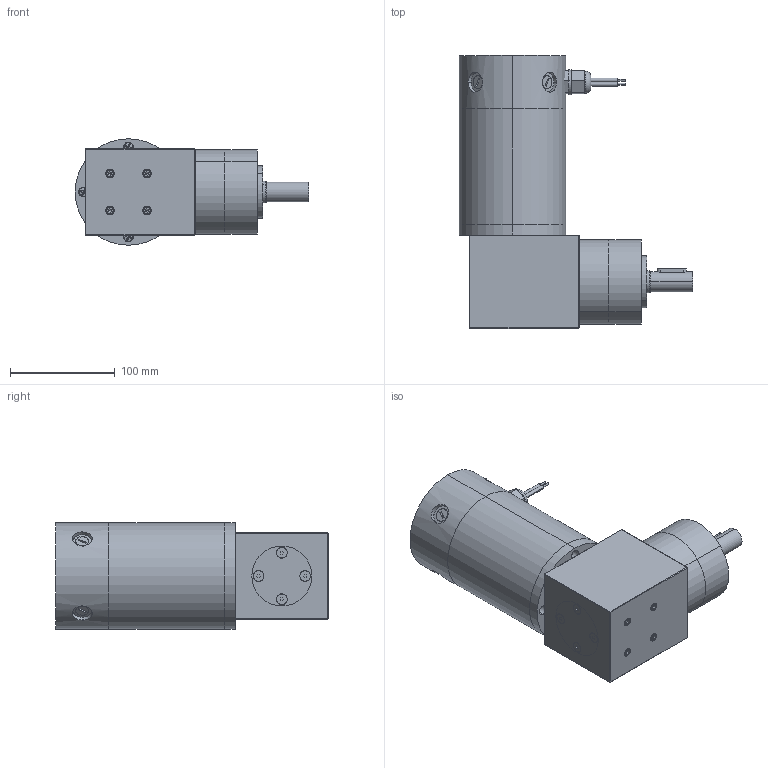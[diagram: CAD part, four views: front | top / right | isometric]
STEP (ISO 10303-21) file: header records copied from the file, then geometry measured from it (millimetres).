
FILE_DESCRIPTION (( 'STEP AP203' ), '1' );
FILE_NAME ('d40675bgra1.step', '2018-12-07T19:51:13', ( '' ), ( '' ), 'SwSTEP 2.0', 'SolidWorks 2017', '' );
FILE_SCHEMA (( 'CONFIG_CONTROL_DESIGN' ));
Products named in the file (1): d40675bgra1
Bounding box: 222.85 x 260.35 x 101.6 mm (x, y, z)
Volume: 2486476.3 mm3; surface area: 259599.4 mm2
Topology: 29 solids, 29 shells, 1208 faces, 3011 edges, 1910 vertices
Faces by surface type: cylinder 711, plane 356, cone 105, torus 20, sphere 8, bspline 8
Entity records: 55235 total; most frequent: CARTESIAN_POINT 29048, ORIENTED_EDGE 5958, DIRECTION 5010, EDGE_CURVE 2979, VERTEX_POINT 1910, AXIS2_PLACEMENT_3D 1860, EDGE_LOOP 1321, LINE 1290
